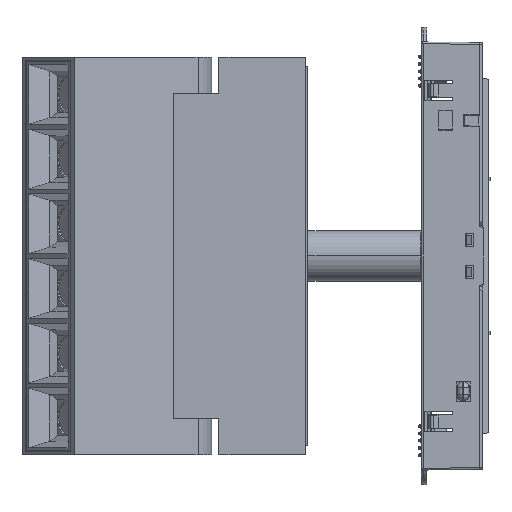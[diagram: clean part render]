
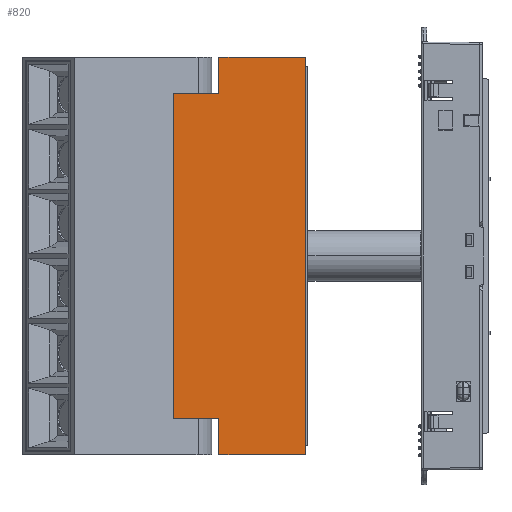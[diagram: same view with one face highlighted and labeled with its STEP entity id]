
A CAD part, left-side view. The second image highlights one B-rep face of the part: STEP entity #820.
In plain terms, the highlighted planar face has unit normal (-1, 0, 0).
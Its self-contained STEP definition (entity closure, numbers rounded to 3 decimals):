
#308=DIRECTION('',(0.,-1.,0.));
#309=VECTOR('',#308,24.);
#310=CARTESIAN_POINT('',(-11.,5.5,-55.));
#311=LINE('',#310,#309);
#354=DIRECTION('',(0.,0.,1.));
#355=VECTOR('',#354,110.);
#356=CARTESIAN_POINT('',(-11.,-18.5,-55.));
#357=LINE('',#356,#355);
#374=DIRECTION('',(0.,-1.,0.));
#375=VECTOR('',#374,13.);
#376=CARTESIAN_POINT('',(-11.,18.5,-45.));
#377=LINE('',#376,#375);
#378=DIRECTION('',(0.,0.,1.));
#379=VECTOR('',#378,90.);
#380=CARTESIAN_POINT('',(-11.,18.5,-45.));
#381=LINE('',#380,#379);
#382=DIRECTION('',(0.,-1.,0.));
#383=VECTOR('',#382,13.);
#384=CARTESIAN_POINT('',(-11.,18.5,45.));
#385=LINE('',#384,#383);
#386=DIRECTION('',(0.,0.,-1.));
#387=VECTOR('',#386,10.);
#388=CARTESIAN_POINT('',(-11.,5.5,55.));
#389=LINE('',#388,#387);
#390=DIRECTION('',(0.,0.,1.));
#391=VECTOR('',#390,10.);
#392=CARTESIAN_POINT('',(-11.,5.5,-55.));
#393=LINE('',#392,#391);
#434=DIRECTION('',(0.,-1.,0.));
#435=VECTOR('',#434,24.);
#436=CARTESIAN_POINT('',(-11.,5.5,55.));
#437=LINE('',#436,#435);
#608=CARTESIAN_POINT('',(-11.,-18.5,-55.));
#610=VERTEX_POINT('',#608);
#612=CARTESIAN_POINT('',(-11.,-18.5,55.));
#614=VERTEX_POINT('',#612);
#617=CARTESIAN_POINT('',(-11.,5.5,55.));
#619=VERTEX_POINT('',#617);
#624=CARTESIAN_POINT('',(-11.,18.5,45.));
#625=VERTEX_POINT('',#624);
#626=CARTESIAN_POINT('',(-11.,5.5,45.));
#627=VERTEX_POINT('',#626);
#628=CARTESIAN_POINT('',(-11.,5.5,-45.));
#630=VERTEX_POINT('',#628);
#633=CARTESIAN_POINT('',(-11.,5.5,-55.));
#635=VERTEX_POINT('',#633);
#638=CARTESIAN_POINT('',(-11.,18.5,-45.));
#639=VERTEX_POINT('',#638);
#801=CARTESIAN_POINT('',(-11.,18.5,-55.));
#802=DIRECTION('',(-1.,0.,0.));
#803=DIRECTION('',(0.,-1.,0.));
#804=AXIS2_PLACEMENT_3D('',#801,#802,#803);
#805=PLANE('',#804);
#806=ORIENTED_EDGE('',*,*,#745,.F.);
#808=ORIENTED_EDGE('',*,*,#807,.T.);
#810=ORIENTED_EDGE('',*,*,#809,.T.);
#812=ORIENTED_EDGE('',*,*,#811,.F.);
#814=ORIENTED_EDGE('',*,*,#813,.T.);
#815=ORIENTED_EDGE('',*,*,#783,.F.);
#816=ORIENTED_EDGE('',*,*,#711,.F.);
#817=ORIENTED_EDGE('',*,*,#727,.T.);
#818=EDGE_LOOP('',(#806,#808,#810,#812,#814,#815,#816,#817));
#819=FACE_OUTER_BOUND('',#818,.F.);
#711=EDGE_CURVE('',#635,#610,#311,.T.);
#727=EDGE_CURVE('',#635,#630,#393,.T.);
#745=EDGE_CURVE('',#639,#630,#377,.T.);
#783=EDGE_CURVE('',#610,#614,#357,.T.);
#807=EDGE_CURVE('',#639,#625,#381,.T.);
#809=EDGE_CURVE('',#625,#627,#385,.T.);
#811=EDGE_CURVE('',#619,#627,#389,.T.);
#813=EDGE_CURVE('',#619,#614,#437,.T.);
#820=ADVANCED_FACE('',(#819),#805,.T.);
